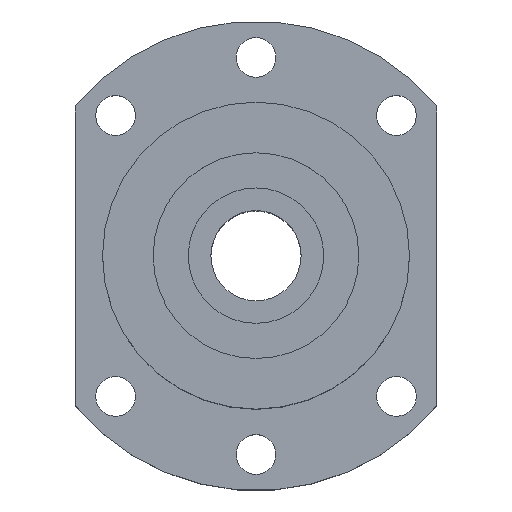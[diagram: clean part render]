
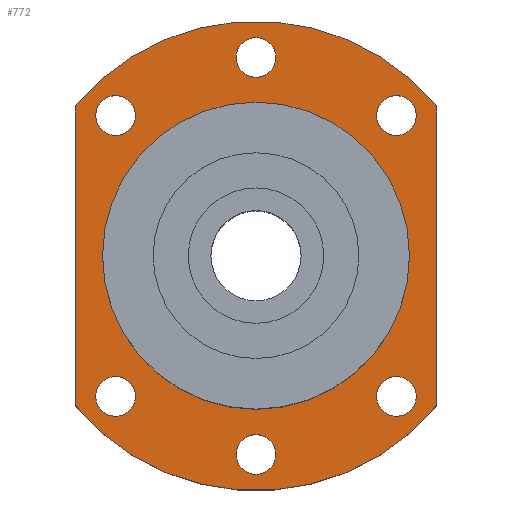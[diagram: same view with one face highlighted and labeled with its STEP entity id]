
A CAD part, top view. The second image highlights one B-rep face of the part: STEP entity #772.
In plain terms, the highlighted planar face has unit normal (0, 0, 1).
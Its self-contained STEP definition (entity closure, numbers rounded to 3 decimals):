
#70=LINE($,#1339,#102);
#71=LINE($,#1342,#103);
#102=VECTOR($,#1123,83.066);
#103=VECTOR($,#1126,83.066);
#153=FACE_BOUND($,#297,.T.);
#154=FACE_BOUND($,#298,.T.);
#155=FACE_BOUND($,#299,.T.);
#156=FACE_BOUND($,#300,.T.);
#157=FACE_BOUND($,#301,.T.);
#158=FACE_BOUND($,#302,.T.);
#159=FACE_BOUND($,#303,.T.);
#160=FACE_BOUND($,#304,.T.);
#297=EDGE_LOOP($,(#686));
#298=EDGE_LOOP($,(#687));
#299=EDGE_LOOP($,(#688));
#300=EDGE_LOOP($,(#689));
#301=EDGE_LOOP($,(#690));
#302=EDGE_LOOP($,(#691));
#303=EDGE_LOOP($,(#692));
#304=EDGE_LOOP($,(#693,#694,#695,#696));
#333=CIRCLE($,#832,5.5);
#337=CIRCLE($,#839,5.5);
#341=CIRCLE($,#846,5.5);
#345=CIRCLE($,#853,5.5);
#349=CIRCLE($,#860,5.5);
#353=CIRCLE($,#867,5.5);
#355=CIRCLE($,#870,42.5);
#359=CIRCLE($,#878,65.);
#360=CIRCLE($,#882,65.);
#401=VERTEX_POINT($,#1255);
#405=VERTEX_POINT($,#1266);
#409=VERTEX_POINT($,#1277);
#413=VERTEX_POINT($,#1288);
#417=VERTEX_POINT($,#1299);
#421=VERTEX_POINT($,#1310);
#423=VERTEX_POINT($,#1315);
#429=VERTEX_POINT($,#1331);
#430=VERTEX_POINT($,#1333);
#431=VERTEX_POINT($,#1337);
#432=VERTEX_POINT($,#1341);
#485=EDGE_CURVE($,#401,#401,#333,.T.);
#489=EDGE_CURVE($,#405,#405,#337,.T.);
#493=EDGE_CURVE($,#409,#409,#341,.T.);
#497=EDGE_CURVE($,#413,#413,#345,.T.);
#501=EDGE_CURVE($,#417,#417,#349,.T.);
#505=EDGE_CURVE($,#421,#421,#353,.T.);
#507=EDGE_CURVE($,#423,#423,#355,.T.);
#514=EDGE_CURVE($,#430,#429,#359,.T.);
#517=EDGE_CURVE($,#429,#431,#70,.T.);
#518=EDGE_CURVE($,#432,#430,#71,.T.);
#520=EDGE_CURVE($,#431,#432,#360,.T.);
#686=ORIENTED_EDGE($,*,*,#485,.T.);
#687=ORIENTED_EDGE($,*,*,#489,.T.);
#688=ORIENTED_EDGE($,*,*,#493,.T.);
#689=ORIENTED_EDGE($,*,*,#497,.T.);
#690=ORIENTED_EDGE($,*,*,#501,.T.);
#691=ORIENTED_EDGE($,*,*,#505,.T.);
#692=ORIENTED_EDGE($,*,*,#507,.T.);
#693=ORIENTED_EDGE($,*,*,#517,.T.);
#694=ORIENTED_EDGE($,*,*,#520,.T.);
#695=ORIENTED_EDGE($,*,*,#518,.T.);
#696=ORIENTED_EDGE($,*,*,#514,.T.);
#720=PLANE($,#883);
#772=ADVANCED_FACE($,(#153,#154,#155,#156,#157,#158,#159,#160),#720,.T.);
#832=AXIS2_PLACEMENT_3D($,#1256,#1022,#1023);
#839=AXIS2_PLACEMENT_3D($,#1267,#1036,#1037);
#846=AXIS2_PLACEMENT_3D($,#1278,#1050,#1051);
#853=AXIS2_PLACEMENT_3D($,#1289,#1064,#1065);
#860=AXIS2_PLACEMENT_3D($,#1300,#1078,#1079);
#867=AXIS2_PLACEMENT_3D($,#1311,#1092,#1093);
#870=AXIS2_PLACEMENT_3D($,#1316,#1098,#1099);
#878=AXIS2_PLACEMENT_3D($,#1334,#1117,#1118);
#882=AXIS2_PLACEMENT_3D($,#1345,#1130,#1131);
#883=AXIS2_PLACEMENT_3D($,#1346,#1132,#1133);
#1022=DIRECTION('center_axis',(0.,0.,-1.));
#1023=DIRECTION('ref_axis',(-1.,0.,0.));
#1036=DIRECTION('center_axis',(0.,0.,-1.));
#1037=DIRECTION('ref_axis',(-1.,0.,0.));
#1050=DIRECTION('center_axis',(0.,0.,-1.));
#1051=DIRECTION('ref_axis',(-1.,0.,0.));
#1064=DIRECTION('center_axis',(0.,0.,-1.));
#1065=DIRECTION('ref_axis',(-1.,0.,0.));
#1078=DIRECTION('center_axis',(0.,0.,-1.));
#1079=DIRECTION('ref_axis',(-1.,0.,0.));
#1092=DIRECTION('center_axis',(0.,0.,-1.));
#1093=DIRECTION('ref_axis',(-1.,0.,0.));
#1098=DIRECTION('center_axis',(0.,0.,-1.));
#1099=DIRECTION('ref_axis',(-1.,0.,0.));
#1117=DIRECTION('center_axis',(0.,0.,1.));
#1118=DIRECTION('ref_axis',(0.769,0.639,0.));
#1123=DIRECTION($,(0.,-1.,0.));
#1126=DIRECTION($,(0.,1.,0.));
#1130=DIRECTION('center_axis',(0.,0.,1.));
#1131=DIRECTION('ref_axis',(-0.769,-0.639,0.));
#1132=DIRECTION('center_axis',(0.,0.,1.));
#1133=DIRECTION('ref_axis',(1.,0.,0.));
#1255=CARTESIAN_POINT('',(5.5,-55.,34.));
#1256=CARTESIAN_POINT('Origin',(0.,-55.,34.));
#1266=CARTESIAN_POINT('',(-33.391,38.891,34.));
#1267=CARTESIAN_POINT('Origin',(-38.891,38.891,34.));
#1277=CARTESIAN_POINT('',(44.391,38.891,34.));
#1278=CARTESIAN_POINT('Origin',(38.891,38.891,34.));
#1288=CARTESIAN_POINT('',(5.5,55.,34.));
#1289=CARTESIAN_POINT('Origin',(0.,55.,34.));
#1299=CARTESIAN_POINT('',(44.391,-38.891,34.));
#1300=CARTESIAN_POINT('Origin',(38.891,-38.891,34.));
#1310=CARTESIAN_POINT('',(-33.391,-38.891,34.));
#1311=CARTESIAN_POINT('Origin',(-38.891,-38.891,34.));
#1315=CARTESIAN_POINT('',(42.5,0.,34.));
#1316=CARTESIAN_POINT('Origin',(0.,0.,34.));
#1331=CARTESIAN_POINT('',(-50.,41.533,34.));
#1333=CARTESIAN_POINT('',(50.,41.533,34.));
#1334=CARTESIAN_POINT('Origin',(0.,0.,34.));
#1337=CARTESIAN_POINT('',(-50.,-41.533,34.));
#1339=CARTESIAN_POINT($,(-50.,41.533,34.));
#1341=CARTESIAN_POINT('',(50.,-41.533,34.));
#1342=CARTESIAN_POINT($,(50.,-41.533,34.));
#1345=CARTESIAN_POINT('Origin',(0.,0.,34.));
#1346=CARTESIAN_POINT('Origin',(0.,0.,
34.));
